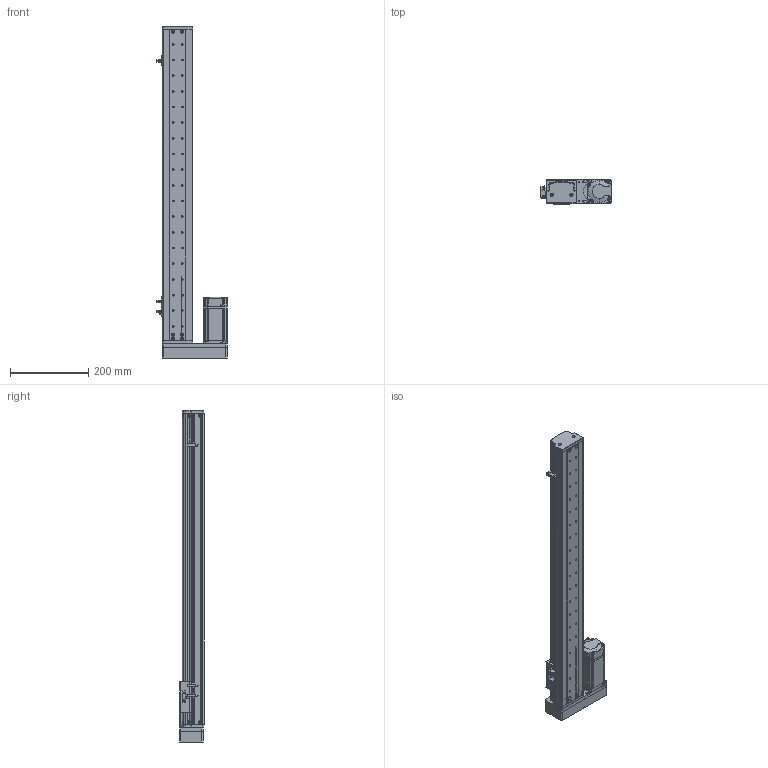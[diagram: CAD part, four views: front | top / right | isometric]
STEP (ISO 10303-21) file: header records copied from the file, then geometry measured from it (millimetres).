
FILE_DESCRIPTION (( 'STEP AP214' ), '1' );
FILE_NAME ('KSD75S-S640-ML-CM.STEP', '2019-10-18T07:03:55', ( '微软用户' ), ( '微软中国' ), 'SwSTEP 2.0', 'SolidWorks 2014', '' );
FILE_SCHEMA (( 'AUTOMOTIVE_DESIGN' ));
Length unit declared in the file: millimetre
Products named in the file (13): MHMD042G1CA_2_03; 75宽模组保护罩左右折; 75宽马达安装板连板左右折丝杆; 覜茼え100遵圉猾敕; U倰嫖萇EEㄜSX672; 綴傷啣 ; ヶ傷啣; 75裔啣-640俴最; 75遵耀郪耜啣-640俴最; 75遵賑雄釱; MGW15H賑寢640俴最 ; 640俴最; KSD75S-S640-ML-CM
Assembly tree (15 placements, depth 3):
  KSD75S-S640-ML-CM
    MGW15H賑寢640俴最 
      640俴最
    75遵賑雄釱
    75遵耀郪耜啣-640俴最  x2
    75裔啣-640俴最
    ヶ傷啣
    綴傷啣 
    U倰嫖萇EEㄜSX672  x3
    覜茼え100遵圉猾敕
    75宽马达安装板连板左右折丝杆
    75宽模组保护罩左右折
    MHMD042G1CA_2_03
Bounding box: 178.7 x 63 x 847.5 mm (x, y, z)
Volume: 1058469.3 mm3; surface area: 667212.3 mm2
Topology: 13 solids, 14 shells, 1523 faces, 4282 edges, 2797 vertices
Faces by surface type: cylinder 739, plane 637, cone 129, bspline 18
Entity records: 48766 total; most frequent: CARTESIAN_POINT 9218, DIRECTION 7364, ORIENTED_EDGE 6844, EDGE_CURVE 3493, AXIS2_PLACEMENT_3D 2722, VERTEX_POINT 2315, LINE 1920, VECTOR 1920
